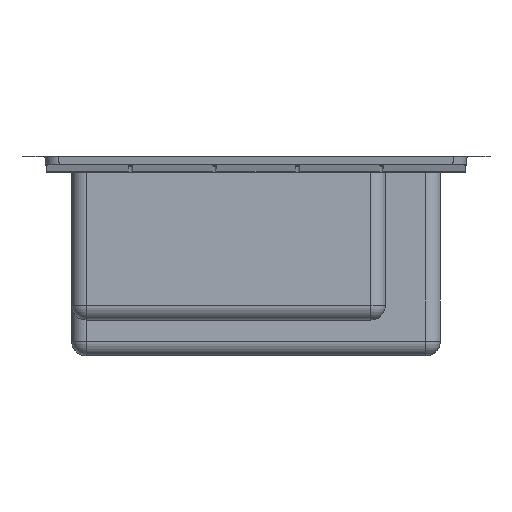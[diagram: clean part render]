
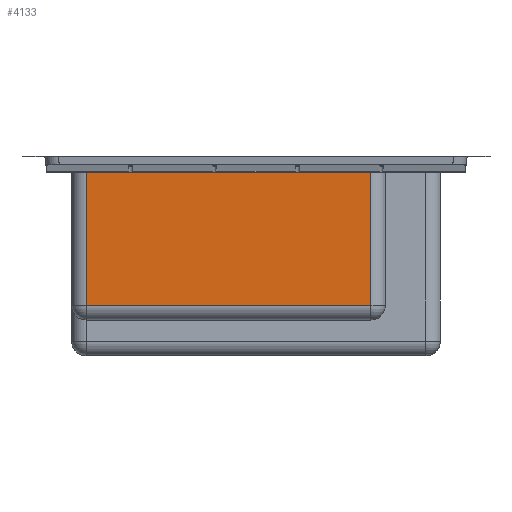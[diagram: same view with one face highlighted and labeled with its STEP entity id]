
A CAD part, left-side view. The second image highlights one B-rep face of the part: STEP entity #4133.
In plain terms, the highlighted planar face has unit normal (-1, 0, 0).
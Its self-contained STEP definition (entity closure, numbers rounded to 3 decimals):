
#3927=CARTESIAN_POINT('Vertex',(-30.326,185.,32.3)) ;
#3930=CARTESIAN_POINT('Line Origine',(-30.326,30.,32.3)) ;
#3934=CARTESIAN_POINT('Vertex',(-30.326,-125.,32.3)) ;
#4091=CARTESIAN_POINT('Line Origine',(-30.326,185.,-48.2)) ;
#4095=CARTESIAN_POINT('Vertex',(-30.326,185.,-112.7)) ;
#4110=CARTESIAN_POINT('Axis2P3D Location',(-30.326,-125.,32.3)) ;
#4115=CARTESIAN_POINT('Line Origine',(-30.326,-125.,-40.2)) ;
#4119=CARTESIAN_POINT('Vertex',(-30.326,-125.,-112.7)) ;
#4122=CARTESIAN_POINT('Line Origine',(-30.326,30.,-112.7)) ;
#3931=DIRECTION('Vector Direction',(0.,1.,0.)) ;
#4092=DIRECTION('Vector Direction',(0.,0.,1.)) ;
#4111=DIRECTION('Axis2P3D Direction',(-1.,0.,0.)) ;
#4112=DIRECTION('Axis2P3D XDirection',(0.,1.,0.)) ;
#4116=DIRECTION('Vector Direction',(0.,0.,-1.)) ;
#4123=DIRECTION('Vector Direction',(0.,1.,0.)) ;
#4113=AXIS2_PLACEMENT_3D('Plane Axis2P3D',#4110,#4111,#4112) ;
#4128=ORIENTED_EDGE('',*,*,#4121,.F.) ;
#4129=ORIENTED_EDGE('',*,*,#3936,.F.) ;
#4130=ORIENTED_EDGE('',*,*,#4097,.T.) ;
#4131=ORIENTED_EDGE('',*,*,#4126,.T.) ;
#3932=VECTOR('Line Direction',#3931,1.) ;
#4093=VECTOR('Line Direction',#4092,1.) ;
#4117=VECTOR('Line Direction',#4116,1.) ;
#4124=VECTOR('Line Direction',#4123,1.) ;
#4133=ADVANCED_FACE('Vaschino',(#4132),#4114,.T.) ;
#3936=EDGE_CURVE('',#3928,#3935,#3933,.F.) ;
#4097=EDGE_CURVE('',#3928,#4096,#4094,.F.) ;
#4121=EDGE_CURVE('',#3935,#4120,#4118,.T.) ;
#4126=EDGE_CURVE('',#4096,#4120,#4125,.F.) ;
#4127=EDGE_LOOP('',(#4128,#4129,#4130,#4131)) ;
#4132=FACE_OUTER_BOUND('',#4127,.T.) ;
#3933=LINE('Line',#3930,#3932) ;
#4094=LINE('Line',#4091,#4093) ;
#4118=LINE('Line',#4115,#4117) ;
#4125=LINE('Line',#4122,#4124) ;
#4114=PLANE('',#4113) ;
#3928=VERTEX_POINT('',#3927) ;
#3935=VERTEX_POINT('',#3934) ;
#4096=VERTEX_POINT('',#4095) ;
#4120=VERTEX_POINT('',#4119) ;
